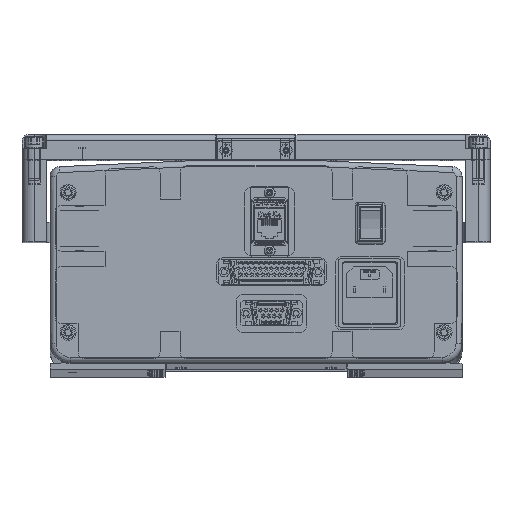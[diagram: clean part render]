
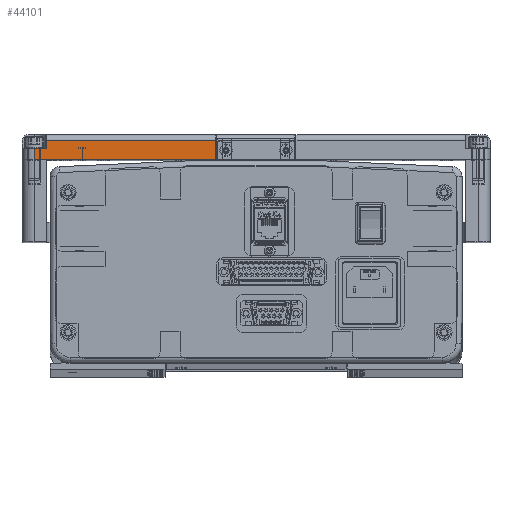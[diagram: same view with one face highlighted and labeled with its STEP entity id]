
A CAD part, top view. The second image highlights one B-rep face of the part: STEP entity #44101.
In plain terms, the highlighted planar face has unit normal (0, 0, 1).
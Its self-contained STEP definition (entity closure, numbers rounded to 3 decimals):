
#3303 = DIRECTION ( 'NONE',  ( -1., 0., 0. ) ) ;
#14310 = VECTOR ( 'NONE', #19714, 1000. ) ;
#19714 = DIRECTION ( 'NONE',  ( -1., 0., 0. ) ) ;
#19729 = ORIENTED_EDGE ( 'NONE', *, *, #62920, .F. ) ;
#19930 = AXIS2_PLACEMENT_3D ( 'NONE', #59346, #159215, #73587 ) ;
#22865 = LINE ( 'NONE', #90404, #94416 ) ;
#23943 = CARTESIAN_POINT ( 'NONE',  ( -104.65, 5.7, 117. ) ) ;
#29259 = VECTOR ( 'NONE', #61538, 1000. ) ;
#33497 = DIRECTION ( 'NONE',  ( 0., -1., 0. ) ) ;
#34224 = CARTESIAN_POINT ( 'NONE',  ( -20., 9.7, 117. ) ) ;
#38636 = CARTESIAN_POINT ( 'NONE',  ( -20., 0., 117. ) ) ;
#39225 = DIRECTION ( 'NONE',  ( 0., 1., 0. ) ) ;
#41453 = VERTEX_POINT ( 'NONE', #23943 ) ;
#44101 = ADVANCED_FACE ( 'NONE', ( #75058 ), #44319, .F. ) ;
#44319 = PLANE ( 'NONE',  #19930 ) ;
#46031 = LINE ( 'NONE', #53713, #155542 ) ;
#46135 = EDGE_CURVE ( 'NONE', #72046, #156496, #90356, .T. ) ;
#53713 = CARTESIAN_POINT ( 'NONE',  ( -111., 0., 117. ) ) ;
#59346 = CARTESIAN_POINT ( 'NONE',  ( -111., 12.7, 117. ) ) ;
#59943 = VERTEX_POINT ( 'NONE', #63615 ) ;
#60242 = CARTESIAN_POINT ( 'NONE',  ( -111., 5.7, 117. ) ) ;
#61538 = DIRECTION ( 'NONE',  ( 0., 1., 0. ) ) ;
#62920 = EDGE_CURVE ( 'NONE', #41453, #156496, #67258, .T. ) ;
#63034 = EDGE_LOOP ( 'NONE', ( #94073, #95153, #65309, #19729, #77339, #152501 ) ) ;
#63615 = CARTESIAN_POINT ( 'NONE',  ( -111., 5.7, 117. ) ) ;
#65309 = ORIENTED_EDGE ( 'NONE', *, *, #46135, .T. ) ;
#67258 = LINE ( 'NONE', #103947, #29259 ) ;
#68056 = DIRECTION ( 'NONE',  ( 1., 0., 0. ) ) ;
#72046 = VERTEX_POINT ( 'NONE', #34224 ) ;
#73587 = DIRECTION ( 'NONE',  ( -1., 0., 0. ) ) ;
#75058 = FACE_OUTER_BOUND ( 'NONE', #63034, .T. ) ;
#77339 = ORIENTED_EDGE ( 'NONE', *, *, #122048, .T. ) ;
#77510 = VECTOR ( 'NONE', #3303, 1000. ) ;
#90356 = LINE ( 'NONE', #134065, #14310 ) ;
#90404 = CARTESIAN_POINT ( 'NONE',  ( -111., 12.7, 117. ) ) ;
#94073 = ORIENTED_EDGE ( 'NONE', *, *, #178038, .T. ) ;
#94416 = VECTOR ( 'NONE', #33497, 1000. ) ;
#95153 = ORIENTED_EDGE ( 'NONE', *, *, #118186, .T. ) ;
#103205 = CARTESIAN_POINT ( 'NONE',  ( -111., 0., 117. ) ) ;
#103947 = CARTESIAN_POINT ( 'NONE',  ( -104.65, -12.015, 117. ) ) ;
#115554 = LINE ( 'NONE', #60242, #77510 ) ;
#118186 = EDGE_CURVE ( 'NONE', #172126, #72046, #170440, .T. ) ;
#122048 = EDGE_CURVE ( 'NONE', #41453, #59943, #115554, .T. ) ;
#124808 = CARTESIAN_POINT ( 'NONE',  ( -104.65, 9.7, 117. ) ) ;
#125207 = VERTEX_POINT ( 'NONE', #103205 ) ;
#132475 = VECTOR ( 'NONE', #39225, 1000. ) ;
#134065 = CARTESIAN_POINT ( 'NONE',  ( -111., 9.7, 117. ) ) ;
#149923 = EDGE_CURVE ( 'NONE', #59943, #125207, #22865, .T. ) ;
#152501 = ORIENTED_EDGE ( 'NONE', *, *, #149923, .T. ) ;
#155542 = VECTOR ( 'NONE', #68056, 1000. ) ;
#156496 = VERTEX_POINT ( 'NONE', #124808 ) ;
#159215 = DIRECTION ( 'NONE',  ( 0., 0., -1. ) ) ;
#169009 = CARTESIAN_POINT ( 'NONE',  ( -20., 0., 117. ) ) ;
#170440 = LINE ( 'NONE', #38636, #132475 ) ;
#172126 = VERTEX_POINT ( 'NONE', #169009 ) ;
#178038 = EDGE_CURVE ( 'NONE', #125207, #172126, #46031, .T. ) ;
